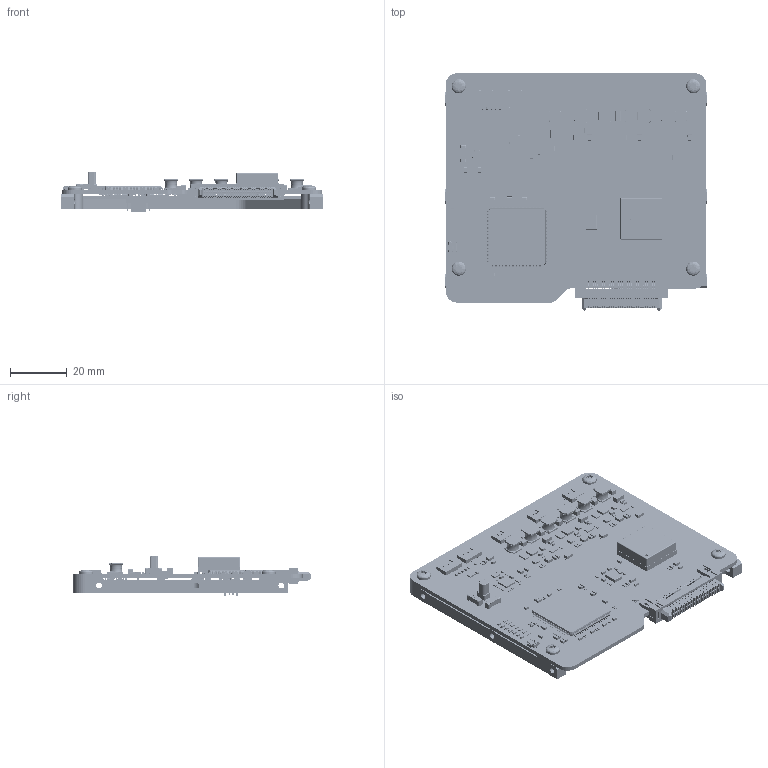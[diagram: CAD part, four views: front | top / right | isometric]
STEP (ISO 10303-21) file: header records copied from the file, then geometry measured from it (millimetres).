
FILE_DESCRIPTION (( 'STEP AP214' ), '1' );
FILE_NAME ('040100_001_ADCSSB.STEP', '2026-11-16T13:53:08', ( '' ), ( '' ), 'SwSTEP 2.0', 'SolidWorks 2024', '' );
FILE_SCHEMA (( 'AUTOMOTIVE_DESIGN' ));
Length unit declared in the file: millimetre
Products named in the file (58): RES_0603_CMP-00737-1; 040900_STR_002_SSBFrameMiddle_Standard; VQFN-HR_CMP-011-00002-1_Standard; 040100_ELE_001_ADCS-SB-V2.1_BOARD; RES_0603_CMP-00729-2; WE-VE_0402_CMP-00704-1; SEN-Z_CMP-008-000002-2_Standard; QFN127P600-8N_CMP-00616-2_Standard; VQFN_CMP-00004-7_Standard; RES_0402_CMP-00656-1; RES_0603_CMP-00731-1; RES_0603_CMP-00721-1; FP-503763-0691-MFG_CMP-015-000026-2_Standard; RES_0603_CMP-00728-2; 999999_COTS_ISO_7380-1_M2.5x06; WL-SMCW_0603_150060xx75000_CMP-00593-1_Standard; FP-S2761-46R-MFG_CMP-00611-3; CAP_0603_CMP-00734-1; CAP_0603_CMP-00718-1; 434331013822_CMP-00609-1; CAP_1206_CMP-00733-1; RES_0402_CMP-00677-1; WL-SMCW_0603_150060xx75000_CMP-00539-1_Standard; RES_1206_CMP-00673-1; PowerDI-123_CMP-011-000011-1; CAP_0603_CMP-00660-1; CAP_0603_CMP-00732-1; RES_0402_CMP-00727-1; TSQFP50P2200X2200X160-144N_CMP-020-00000-7_Standard; FP-RSV0016A-MFG_CMP-095-000031-1; CAP_0603_CMP-00735-1; CAP_0603_CMP-00736-1; CAP_0603_CMP-00663-2; RES_0603_CMP-00720-1; FP-8MA2-IPC_A_CMP-047-000003-1; CAP_0402_CMP-00697-1; RES_0603_CMP-00722-1; TCAN3404DRBRQ1-Footprint-1_CMP-00592-1_Standard; Sen-XY_CMP-008-000002-2_Standard; SOT65P210X110-6N_CMP-00534-1_Standard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
Assembly tree (289 placements, depth 3):
  040100_001_ADCSSB
    040100_ELE_001_ADCS-SB-V2.1
      040100_ELE_001_ADCS-SB-V2.1_BOARD
      FP-RSV0016A-MFG_CMP-095-000031-1  x7
      CAP_0402_CMP-00717-1  x7
      PowerDI-123_CMP-011-000011-1  x3
      WE-VE_0402_CMP-00704-1  x31
      RES_0402_CMP-00656-1  x13
      RES_1206_CMP-00673-1  x3
      SOT65P210X110-6N_CMP-00534-1_Standard  x9
      WL-SMCW_0603_150060xx75000_CMP-00539-1_Standard  x12
      RES_0402_CMP-00677-1  x8
      VQFN-HR_CMP-011-00002-1_Standard  x3
      FP-8MA2-IPC_A_CMP-047-000003-1  x4
      RES_0603_CMP-00720-1  x10
      RES_0603_CMP-00730-1  x6
      CONN_5037630000-SD_02_MOL_CMP-015-000038-3  x3
      503763-0491-Footprint-1_CMP-015-000052-1  x2
      FP-S2761-46R-MFG_CMP-00611-3  x21
      CAP_0603_CMP-00663-2  x3
      WL-SMCW_0603_150060xx75000_CMP-00593-1_Standard
      FP-503763-0691-MFG_CMP-015-000026-2_Standard  x5
      RES_0603_CMP-00722-1  x3
      RES_0603_CMP-00721-1  x9
      WL-SMCW_0603_150060xx75003_CMP-00605-2_Standard  x7
      WE-XTAL_IQXC-25_CMP-00543-1  x2
      QFN127P600-8N_CMP-00616-2_Standard  x3
      VQFN_CMP-00004-7_Standard
      QFN127P600-8N_CMP-047-000000-2
      FP-BNO055-MFG_CMP-00532-1_Standard
      FP-ML-100-1-MFG_CMP-047-000001-3
      TSQFP50P2200X2200X160-144N_CMP-020-00000-7_Standard
      TCAN3404DRBRQ1-Footprint-1_CMP-00592-1_Standard
      434331013822_CMP-00609-1
      RES_0603_CMP-00658-1  x5
      RES_0603_CMP-00726-1  x3
      RES_0603_CMP-00737-1  x3
      RES_0603_CMP-00729-2  x3
      RES_0603_CMP-00728-2  x3
      RES_0402_CMP-00727-1  x6
      RES_0603_CMP-00731-1
      RES_0603_CMP-00710-2
      FP-LQH5BPN_38-MFG_CMP-00618-1_Standard  x6
      SEN-Z_CMP-008-000002-2_Standard
      Sen-XY_CMP-008-000002-2_Standard  x2
      SAMTEC_FTSH-107-01-L-DV-K-A_CMP-002-00057-3_Standard
      CAP_1206_CMP-00627-2_Standard  x6
      CAP_0603_CMP-00660-1  x24
      CAP_1206_CMP-00733-1  x3
      CAP_0603_CMP-00732-1  x3
      CAP_0603_CMP-00718-1  x19
      CAP_0603_CMP-00736-1
      CAP_0402_CMP-00697-1  x4
      CAP_0603_CMP-00734-1  x3
      CAP_0603_CMP-00735-1
      SAMTEC_ERM8-030-01-X-D-EM2-SL-XX_CMP-043-000000-8
    040900_STR_002_SSBFrameMiddle_Standard
    999999_COTS_ISO_7380-1_M2.5x06  x4
Bounding box: 92.3 x 83.88 x 13.98 mm (x, y, z)
Volume: 22072.6 mm3; surface area: 36962.9 mm2
Topology: 1432 solids, 1539 shells, 36540 faces, 93777 edges, 59684 vertices
Faces by surface type: plane 21230, cylinder 9599, bspline 3408, sphere 1786, torus 503, cone 14
Entity records: 683116 total; most frequent: CARTESIAN_POINT 117667, ORIENTED_EDGE 90470, DIRECTION 82321, EDGE_CURVE 45238, LINE 32175, VECTOR 32175, VERTEX_POINT 29540, AXIS2_PLACEMENT_3D 25073
